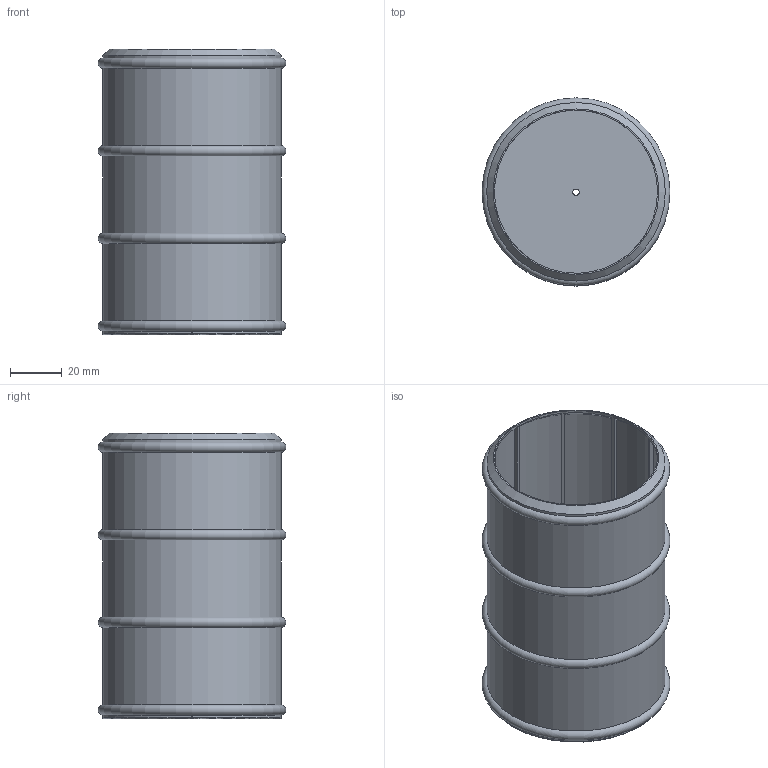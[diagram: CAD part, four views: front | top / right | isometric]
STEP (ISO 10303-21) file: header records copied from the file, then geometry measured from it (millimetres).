
FILE_DESCRIPTION(/* description */ ('STEP AP242','CAx-IF Rec.Pracs.---Representation and Presentation of Product Manufacturing Information (PMI)---4.0---2014-10-13','CAx-IF Rec.Pracs.---3D Tessellated Geometry---0.4---2014-09-14','2;1'),/* implementation_level */ '2;1');
FILE_NAME(/* name */ '68ba11d9f74ded1a92136523',/* time_stamp */ '2025-09-04T22:25:30Z',/* author */ (''),/* organization */ (''),/* preprocessor_version */ 'ST-DEVELOPER v20',/* originating_system */ 'ONSHAPE BY PTC INC, 1.203',/* authorisation */ ' ');
FILE_SCHEMA (('AP242_MANAGED_MODEL_BASED_3D_ENGINEERING_MIM_LF { 1 0 10303 442 1 1 4 }'));
Length unit declared in the file: metre
Products named in the file (1): 12oz Koozie - Oil Can
Bounding box: 72.9 x 72.9 x 111 mm (x, y, z)
Volume: 46822 mm3; surface area: 60159.3 mm2
Topology: 1 solids, 1 shells, 104 faces, 255 edges, 153 vertices
Faces by surface type: plane 44, cylinder 25, bspline 16, cone 11, torus 8
Full cylindrical faces by diameter (mm): 2.5 x1, 63.3 x1, 69.3 x5
Entity records: 3156 total; most frequent: CARTESIAN_POINT 850, ORIENTED_EDGE 484, DIRECTION 458, EDGE_CURVE 242, AXIS2_PLACEMENT_3D 184, VERTEX_POINT 152, EDGE_LOOP 118, FACE_BOUND 118
